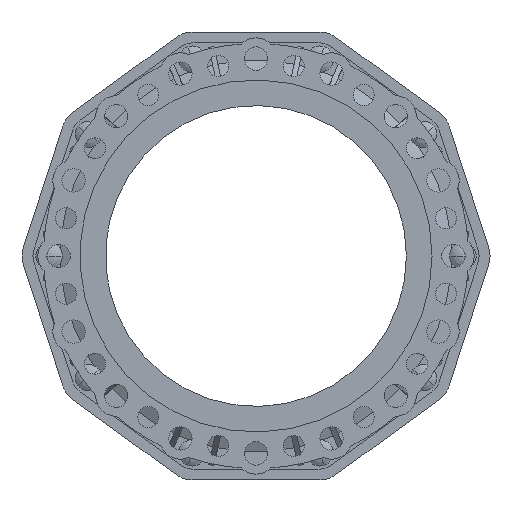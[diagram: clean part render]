
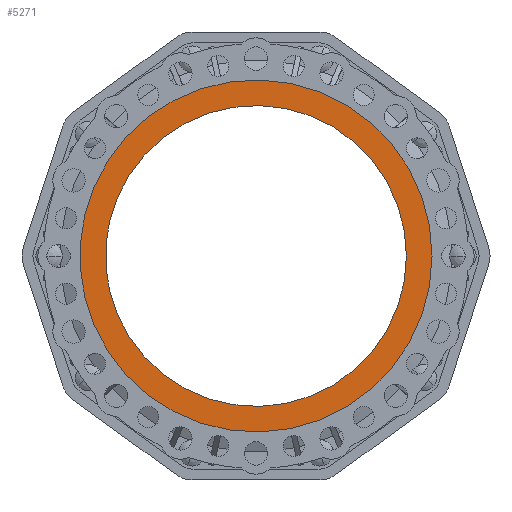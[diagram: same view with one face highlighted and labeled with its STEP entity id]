
A CAD part, front view. The second image highlights one B-rep face of the part: STEP entity #5271.
In plain terms, the highlighted planar face has unit normal (0, -1, 0).
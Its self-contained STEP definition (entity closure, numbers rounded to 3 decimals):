
#962=CARTESIAN_POINT('',(0.,-69.5,0.));
#963=DIRECTION('',(0.,1.,0.));
#964=DIRECTION('',(-0.924,0.,0.383));
#965=AXIS2_PLACEMENT_3D('',#962,#963,#964);
#967=CARTESIAN_POINT('',(0.,-69.5,0.));
#968=DIRECTION('',(0.,1.,0.));
#969=DIRECTION('',(-0.924,0.,-0.383));
#970=AXIS2_PLACEMENT_3D('',#967,#968,#969);
#972=CARTESIAN_POINT('',(0.,-69.5,0.));
#973=DIRECTION('',(0.,-1.,0.));
#974=DIRECTION('',(-0.924,0.,-0.383));
#975=AXIS2_PLACEMENT_3D('',#972,#973,#974);
#977=CARTESIAN_POINT('',(0.,-69.5,0.));
#978=DIRECTION('',(0.,-1.,0.));
#979=DIRECTION('',(-0.924,0.,0.383));
#980=AXIS2_PLACEMENT_3D('',#977,#978,#979);
#3860=CARTESIAN_POINT('',(-216.188,-69.5,89.548));
#3861=CARTESIAN_POINT('',(-216.188,-69.5,-89.548));
#3862=VERTEX_POINT('',#3860);
#3863=VERTEX_POINT('',#3861);
#3864=CARTESIAN_POINT('',(-184.776,-69.5,-76.537));
#3865=CARTESIAN_POINT('',(-184.776,-69.5,76.537));
#3866=VERTEX_POINT('',#3864);
#3867=VERTEX_POINT('',#3865);
#5256=CARTESIAN_POINT('',(0.,-69.5,0.));
#5257=DIRECTION('',(0.,-1.,0.));
#5258=DIRECTION('',(0.,0.,1.));
#5259=AXIS2_PLACEMENT_3D('',#5256,#5257,#5258);
#5260=PLANE('',#5259);
#5261=ORIENTED_EDGE('',*,*,#5236,.F.);
#5262=ORIENTED_EDGE('',*,*,#5250,.F.);
#5263=EDGE_LOOP('',(#5261,#5262));
#5264=FACE_OUTER_BOUND('',#5263,.F.);
#5266=ORIENTED_EDGE('',*,*,#5265,.F.);
#5268=ORIENTED_EDGE('',*,*,#5267,.F.);
#5269=EDGE_LOOP('',(#5266,#5268));
#5270=FACE_BOUND('',#5269,.F.);
#5271=ADVANCED_FACE('',(#5264,#5270),#5260,.T.);
#966=CIRCLE('',#965,200.);
#971=CIRCLE('',#970,200.);
#976=CIRCLE('',#975,234.);
#981=CIRCLE('',#980,234.);
#5236=EDGE_CURVE('',#3863,#3862,#976,.T.);
#5250=EDGE_CURVE('',#3862,#3863,#981,.T.);
#5265=EDGE_CURVE('',#3867,#3866,#966,.T.);
#5267=EDGE_CURVE('',#3866,#3867,#971,.T.);
